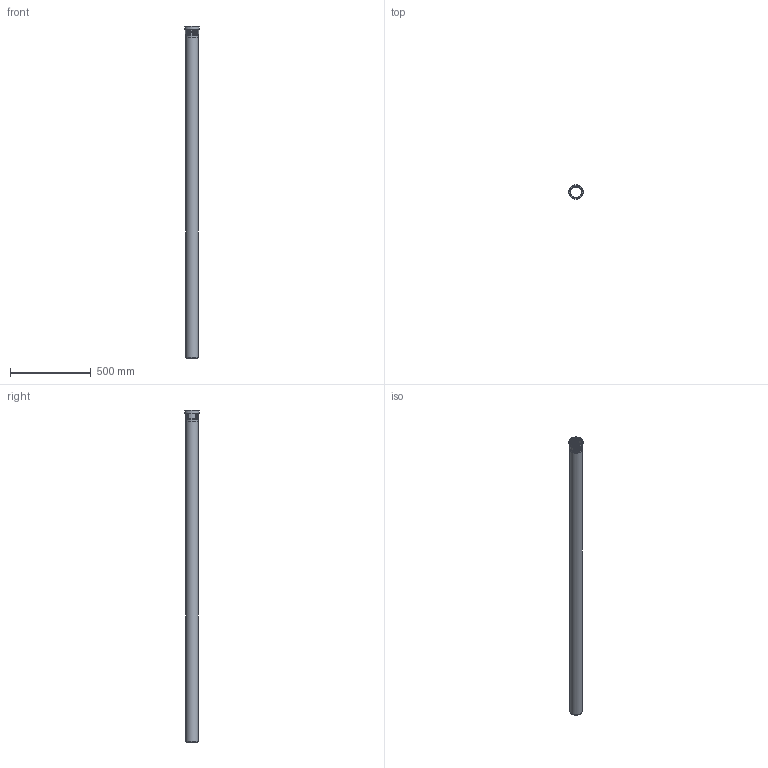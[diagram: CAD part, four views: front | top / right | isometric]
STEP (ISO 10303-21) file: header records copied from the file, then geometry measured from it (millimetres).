
FILE_DESCRIPTION(/* description */ (''),/* implementation_level */ '2;1');
FILE_NAME(/* name */ 'Z:\Geberit\Export\NewStep\390306.stp',/* time_stamp */ '2014-04-02T08:11:17+02:00',/* author */ ('ML'),/* organization */ (''),/* preprocessor_version */ 'ST-DEVELOPER v15.2',/* originating_system */ 'Autodesk Inventor 2014',/* authorisation */ '');
FILE_SCHEMA (('AUTOMOTIVE_DESIGN { 1 0 10303 214 3 1 1 }'));
Length unit declared in the file: millimetre
Products named in the file (3): 861429; 861583ohne; 390306
Bounding box: 89.4 x 89.4 x 2055.7 mm (x, y, z)
Volume: 1235256.3 mm3; surface area: 953228.5 mm2
Topology: 2 solids, 2 shells, 47 faces, 104 edges, 71 vertices
Faces by surface type: torus 24, cylinder 11, plane 10, cone 2
Full cylindrical faces by diameter (mm): 70 x2, 75.2 x2, 76 x2, 78.6 x1, 81.2 x2, 84.2 x1, 89.4 x1
Entity records: 2003 total; most frequent: CARTESIAN_POINT 962, DIRECTION 182, ORIENTED_EDGE 174, AXIS2_PLACEMENT_3D 91, EDGE_CURVE 87, EDGE_LOOP 78, VERTEX_POINT 71, STYLED_ITEM 49
